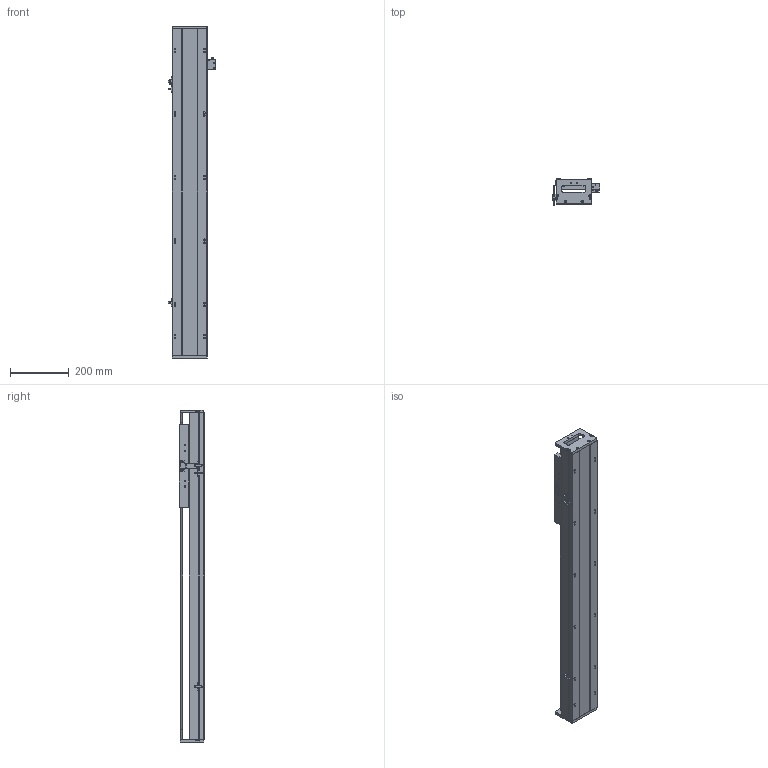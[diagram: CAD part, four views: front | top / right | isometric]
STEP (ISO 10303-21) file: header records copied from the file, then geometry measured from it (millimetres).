
FILE_DESCRIPTION (( 'STEP AP203' ), '1' );
FILE_NAME ('SKR12S-C2-S748（简）.STEP', '2022-09-26T03:24:48', ( '' ), ( '' ), 'SwSTEP 2.0', 'SolidWorks 2018', '' );
FILE_SCHEMA (( 'CONFIG_CONTROL_DESIGN' ));
Length unit declared in the file: millimetre
Products named in the file (8): SKR12耜啣; SKR12滑台-280L（简）; SKR12菁釱-C2-S748(潠); EE-SX672; SIKO棠掑; 棠掑假蚾輸; 覜茼え; SKR12S-C2-S748（简）
Assembly tree (10 placements, depth 2):
  SKR12S-C2-S748（简）
    SKR12菁釱-C2-S748(潠)
    SKR12滑台-280L（简）
    SKR12耜啣  x2
    棠掑假蚾輸
    SIKO棠掑
    EE-SX672  x3
    覜茼え
Bounding box: 162.7 x 87.3 x 1128 mm (x, y, z)
Volume: 5382194.3 mm3; surface area: 870492 mm2
Topology: 11 solids, 11 shells, 984 faces, 2615 edges, 1653 vertices
Faces by surface type: cylinder 450, plane 400, cone 134
Entity records: 26745 total; most frequent: CARTESIAN_POINT 5347, DIRECTION 4427, ORIENTED_EDGE 4194, EDGE_CURVE 2097, AXIS2_PLACEMENT_3D 1637, VERTEX_POINT 1357, LINE 1153, VECTOR 1153
